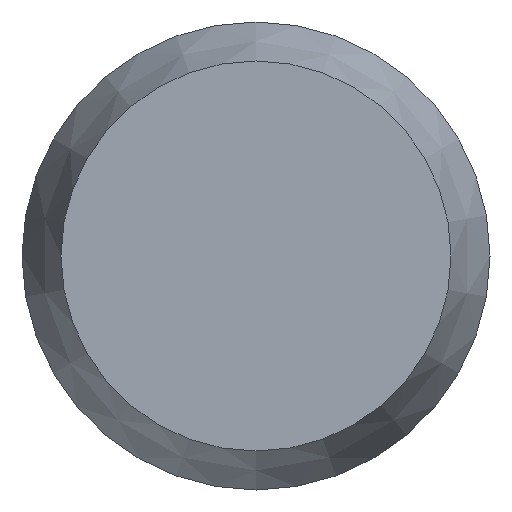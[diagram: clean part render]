
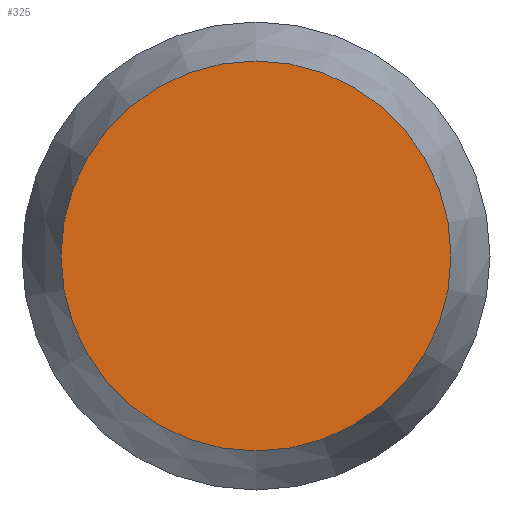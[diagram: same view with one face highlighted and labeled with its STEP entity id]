
A CAD part, front view. The second image highlights one B-rep face of the part: STEP entity #325.
In plain terms, the highlighted planar face has unit normal (0, -1, 0).
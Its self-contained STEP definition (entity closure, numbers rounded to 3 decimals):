
#200 = CYLINDRICAL_SURFACE('',#201,50.);
#201 = AXIS2_PLACEMENT_3D('',#202,#203,#204);
#202 = CARTESIAN_POINT('',(600.,-840.,500.));
#203 = DIRECTION('',(0.,1.,0.));
#204 = DIRECTION('',(0.,-0.,1.));
#272 = VERTEX_POINT('',#273);
#273 = CARTESIAN_POINT('',(600.,-840.,550.));
#294 = EDGE_CURVE('',#272,#272,#295,.T.);
#295 = SURFACE_CURVE('',#296,(#301,#308),.PCURVE_S1.);
#296 = CIRCLE('',#297,50.);
#297 = AXIS2_PLACEMENT_3D('',#298,#299,#300);
#298 = CARTESIAN_POINT('',(600.,-840.,500.));
#299 = DIRECTION('',(0.,1.,0.));
#300 = DIRECTION('',(0.,-0.,1.));
#301 = PCURVE('',#200,#302);
#302 = DEFINITIONAL_REPRESENTATION('',(#303),#307);
#303 = LINE('',#304,#305);
#304 = CARTESIAN_POINT('',(0.,0.));
#305 = VECTOR('',#306,1.);
#306 = DIRECTION('',(1.,0.));
#307 = ( GEOMETRIC_REPRESENTATION_CONTEXT(2) 
PARAMETRIC_REPRESENTATION_CONTEXT() REPRESENTATION_CONTEXT('2D SPACE',''
  ) );
#308 = PCURVE('',#309,#314);
#309 = PLANE('',#310);
#310 = AXIS2_PLACEMENT_3D('',#311,#312,#313);
#311 = CARTESIAN_POINT('',(600.,-840.,500.));
#312 = DIRECTION('',(0.,1.,0.));
#313 = DIRECTION('',(0.,-0.,1.));
#314 = DEFINITIONAL_REPRESENTATION('',(#315),#319);
#315 = CIRCLE('',#316,50.);
#316 = AXIS2_PLACEMENT_2D('',#317,#318);
#317 = CARTESIAN_POINT('',(0.,0.));
#318 = DIRECTION('',(1.,0.));
#319 = ( GEOMETRIC_REPRESENTATION_CONTEXT(2) 
PARAMETRIC_REPRESENTATION_CONTEXT() REPRESENTATION_CONTEXT('2D SPACE',''
  ) );
#325 = ADVANCED_FACE('',(#326),#309,.F.);
#326 = FACE_BOUND('',#327,.T.);
#327 = EDGE_LOOP('',(#328));
#328 = ORIENTED_EDGE('',*,*,#294,.F.);
